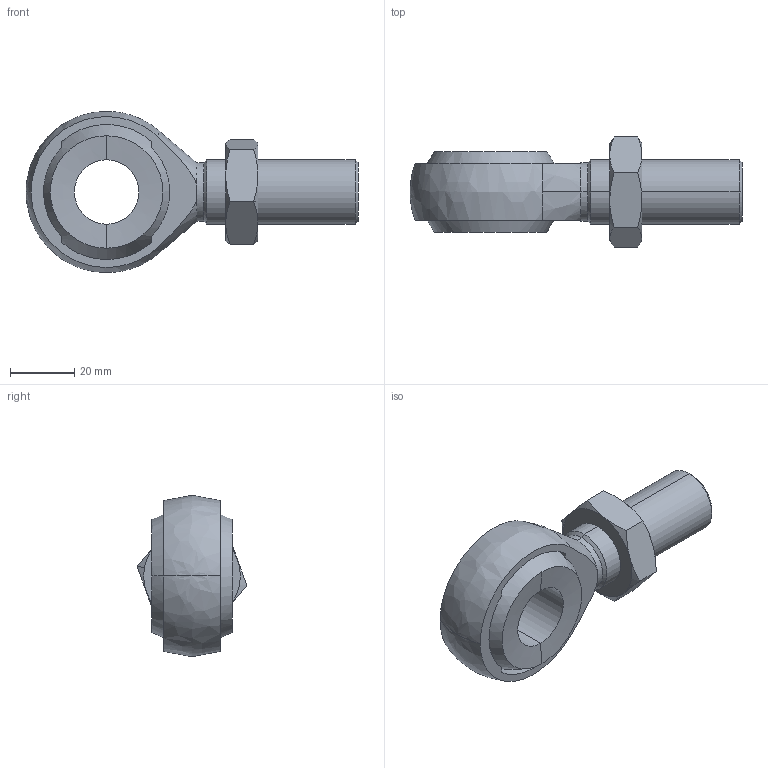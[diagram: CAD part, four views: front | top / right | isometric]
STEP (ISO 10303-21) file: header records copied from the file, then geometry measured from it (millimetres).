
FILE_DESCRIPTION (( 'STEP AP214' ), '1' );
FILE_NAME ('Chape Rotule 20.STEP', '2016-12-26T06:38:57', ( 'Hubert' ), ( '' ), 'SwSTEP 2.0', 'SolidWorks 2014', '' );
FILE_SCHEMA (( 'AUTOMOTIVE_DESIGN' ));
Length unit declared in the file: millimetre
Products named in the file (1): Chape Rotule 20
Bounding box: 103 x 34.12 x 49.99 mm (x, y, z)
Volume: 54946.6 mm3; surface area: 14443.3 mm2
Topology: 2 solids, 2 shells, 71 faces, 170 edges, 104 vertices
Faces by surface type: cone 29, plane 23, cylinder 14, bspline 5
Entity records: 3318 total; most frequent: CARTESIAN_POINT 879, DIRECTION 341, ORIENTED_EDGE 336, EDGE_CURVE 168, AXIS2_PLACEMENT_3D 144, VERTEX_POINT 104, EDGE_LOOP 78, CIRCLE 77
